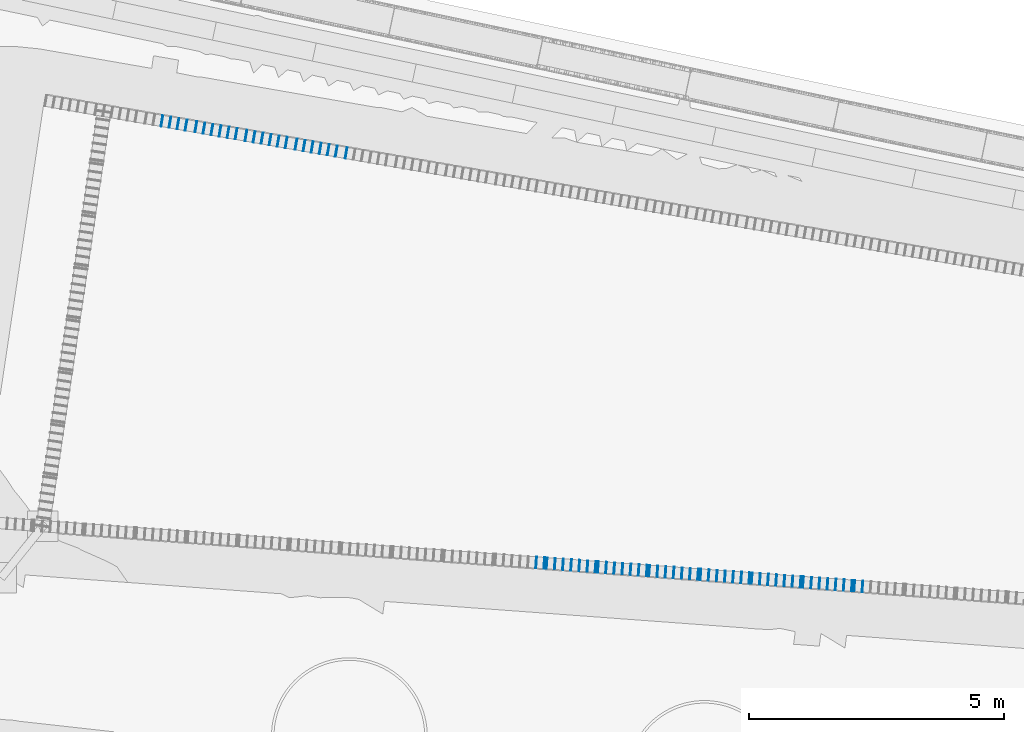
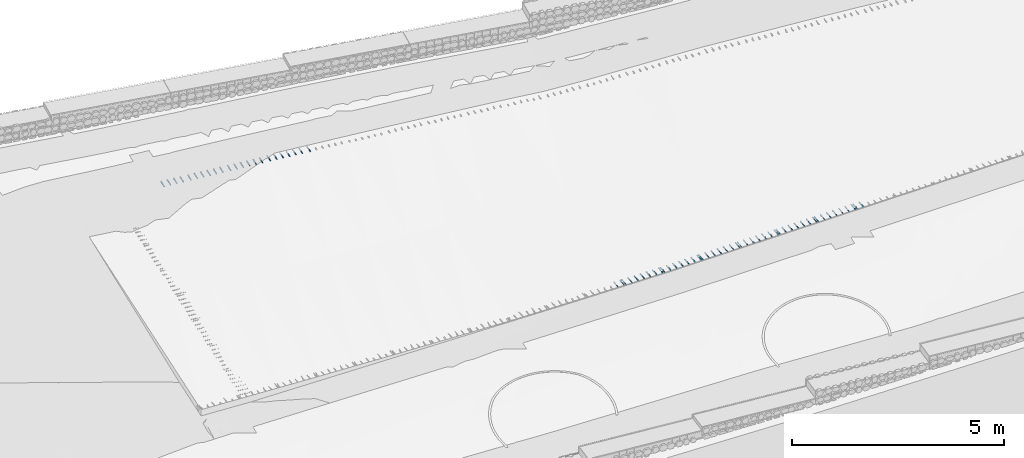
# Not in any storey, part 3 of 33: 69 members.
"""IFC4 model written with IfcOpenShell, lengths in metres."""

import ifcopenshell
import ifcopenshell.guid

model = None  # the IFC model being written
_history = None  # IfcOwnerHistory: only IFC2X3 demands one
_inside = {}  # id of a spatial element -> (the spatial element, [elements in it])
_under = {}  # id of a project, library or spatial element -> (it, [spatial elements below it])
_declared = {}  # id of a project -> (the project, [libraries it declares])
_typed = {}  # id of a type object -> (the type object, [elements of that type])
_made_of = {}  # id of a material, layer set ... -> (it, [elements and type objects made of it])


def new_model(schema):
    """Start an empty IFC model of exactly this schema.

    Asked for "IFC4X3", IfcOpenShell would pick the latest addendum, in which some entities
    have other attributes; the version numbers below select the first issue.
    IFC2X3 requires an IfcOwnerHistory on every rooted entity: one is made here for all.
    """
    global model, _history
    if schema == "IFC4X3":
        model = ifcopenshell.file(schema_version=(4, 3, 0, 0))
    else:
        model = ifcopenshell.file(schema=schema)
    _inside.clear()
    _under.clear()
    _declared.clear()
    _typed.clear()
    _made_of.clear()
    _history = None
    if model.schema == "IFC2X3":
        org = make("IfcOrganization", Name="unknown")
        user = make(
            "IfcPersonAndOrganization",
            ThePerson=make("IfcPerson", FamilyName="unknown"),
            TheOrganization=org,
        )
        app = make(
            "IfcApplication",
            ApplicationDeveloper=org,
            Version="unknown",
            ApplicationFullName="unknown",
            ApplicationIdentifier="unknown",
        )
        _history = make(
            "IfcOwnerHistory",
            OwningUser=user,
            OwningApplication=app,
            ChangeAction="ADDED",
            CreationDate=0,
        )
    return model


def make(cls, **values):
    """One entity of the class cls with the attributes given. An attribute that is None is left unset."""
    return model.create_entity(
        cls, **{name: value for name, value in values.items() if value is not None}
    )


def rooted(cls, **values):
    """An entity with a GlobalId (a new one), such as an element, a storey or a relation."""
    return make(cls, GlobalId=ifcopenshell.guid.new(), OwnerHistory=_history, **values)


def si_unit(unit_type, name, prefix=None):
    """IfcSIUnit, for example si_unit("LENGTHUNIT", "METRE", prefix="MILLI")."""
    return make("IfcSIUnit", UnitType=unit_type, Prefix=prefix, Name=name)


def assignment(units):
    """IfcUnitAssignment: the units of a project."""
    return None if units is None else make("IfcUnitAssignment", Units=units)


def point(xyz):
    """IfcCartesianPoint."""
    return None if xyz is None else make("IfcCartesianPoint", Coordinates=xyz)


def direction(xyz):
    """IfcDirection."""
    return None if xyz is None else make("IfcDirection", DirectionRatios=xyz)


def frame(location, z_axis=None, x_axis=None):
    """IfcAxis2Placement3D, a coordinate frame: its origin and axes. An axis left out is left unset."""
    return make(
        "IfcAxis2Placement3D",
        Location=point(location),
        Axis=direction(z_axis),
        RefDirection=direction(x_axis),
    )


def origin_with_axes():
    """The frame at (0, 0, 0) with the z axis (0, 0, 1) and the x axis (1, 0, 0) written out."""
    return frame((0.0, 0.0, 0.0), z_axis=(0.0, 0.0, 1.0), x_axis=(1.0, 0.0, 0.0))


def place(relative_to, where):
    """IfcLocalPlacement: puts the frame where relative to a parent placement (None: the world)."""
    return make(
        "IfcLocalPlacement", PlacementRelTo=relative_to, RelativePlacement=where
    )


def context(
    kind, dimensions, precision=None, world=None, true_north=None, identifier=None
):
    """IfcGeometricRepresentationContext, for example the 3D "Model" context."""
    return make(
        "IfcGeometricRepresentationContext",
        ContextIdentifier=identifier,
        ContextType=kind,
        CoordinateSpaceDimension=dimensions,
        Precision=precision,
        WorldCoordinateSystem=world,
        TrueNorth=true_north,
    )


def subcontext(parent, identifier, kind, view, scale=None):
    """IfcGeometricRepresentationSubContext, for example "Body" below "Model"."""
    return make(
        "IfcGeometricRepresentationSubContext",
        ContextIdentifier=identifier,
        ContextType=kind,
        ParentContext=parent,
        TargetScale=scale,
        TargetView=view,
    )


def project(units=None, contexts=None):
    """IfcProject with its units and contexts."""
    return rooted(
        "IfcProject",
        Name="project",
        RepresentationContexts=contexts,
        UnitsInContext=assignment(units),
    )


def spatial(cls, under=None, at=None, **own):
    """A site, building, storey or space (cls), placed at a placement, below another one or the project."""
    s = rooted(cls, ObjectPlacement=at, **own)
    if under is not None:
        _under.setdefault(under.id(), (under, []))[1].append(s)
    return s


def profile(cls, at=None, kind="AREA", **sizes):
    """A parametric profile (cls). Its sizes go by their IFC names, for example OverallWidth=200.0."""
    return make(cls, ProfileType=kind, Position=at, **sizes)


def rectangle(**sizes):
    """IfcRectangleProfileDef."""
    return profile("IfcRectangleProfileDef", **sizes)


def extrude(swept, where, along, depth):
    """IfcExtrudedAreaSolid: the profile swept, set in the frame where, extruded along a direction by depth."""
    return make(
        "IfcExtrudedAreaSolid",
        SweptArea=swept,
        Position=where,
        ExtrudedDirection=direction(along),
        Depth=depth,
    )


def shape(context_of_items, identifier, shape_type, items):
    """IfcShapeRepresentation: the items that make up one representation, for example the "Body"."""
    return make(
        "IfcShapeRepresentation",
        ContextOfItems=context_of_items,
        RepresentationIdentifier=identifier,
        RepresentationType=shape_type,
        Items=items,
    )


def material(Name=None, Category=None):
    """IfcMaterial."""
    return make("IfcMaterial", Name=Name, Category=Category)


def material_profile(
    of_material, cross_section, Name=None, Category=None, Priority=None
):
    """IfcMaterialProfile: a cross section and its material."""
    return make(
        "IfcMaterialProfile",
        Name=Name,
        Material=of_material,
        Profile=cross_section,
        Priority=Priority,
        Category=Category,
    )


def profile_set(profiles, Name=None, composite=None):
    """IfcMaterialProfileSet."""
    return make(
        "IfcMaterialProfileSet",
        Name=Name,
        MaterialProfiles=profiles,
        CompositeProfile=composite,
    )


def profile_usage(for_profile_set, cardinal=None, extent=None):
    """IfcMaterialProfileSetUsage: how a profile set lies along its element."""
    return make(
        "IfcMaterialProfileSetUsage",
        ForProfileSet=for_profile_set,
        CardinalPoint=cardinal,
        ReferenceExtent=extent,
    )


def made_of(thing, what):
    """Note that an element or type object is made of a material, layer set ...; save() writes the relation."""
    if what is not None:
        _made_of.setdefault(what.id(), (what, []))[1].append(thing)
    return thing


def type_object(cls, material=None, **own):
    """A type object (cls), such as IfcWallType, which elements share."""
    return made_of(rooted(cls, **own), material)


def element(
    cls,
    number,
    at=None,
    inside=None,
    cuts=None,
    type_object=None,
    material=None,
    context=None,
    identifier="Body",
    shape_type=None,
    held_by="IfcProductDefinitionShape",
    body=None,
    shapes=None,
    **own,
):
    """One element of the class cls, such as IfcWall. Its Tag is "e" and its number.

    at: its placement. inside: the storey or other place that contains it. cuts: it is an
    opening in that element (IfcRelVoidsElement). A single representation is given by context,
    identifier, shape_type and body (its items); several are given by shapes. held_by: the class
    of the entity that holds the representations. save() writes the other relations.
    """
    e = rooted(cls, Tag="e%d" % number, ObjectPlacement=at, **own)
    if body is not None:
        shapes = [shape(context, identifier, shape_type, body)]
    if shapes is not None:
        e.Representation = make(held_by, Representations=shapes)
    if inside is not None:
        _inside.setdefault(inside.id(), (inside, []))[1].append(e)
    if cuts is not None:
        rooted(
            "IfcRelVoidsElement", RelatingBuildingElement=cuts, RelatedOpeningElement=e
        )
    if type_object is not None:
        _typed.setdefault(type_object.id(), (type_object, []))[1].append(e)
    return made_of(e, material)


def aggregate(whole, parts):
    """IfcRelAggregates: a whole, such as a stair, and the parts it consists of."""
    return rooted("IfcRelAggregates", RelatingObject=whole, RelatedObjects=parts)


def save(model, path):
    """Write the relations noted so far, then the file.

    IfcRelAggregates (storeys below a building ...), IfcRelContainedInSpatialStructure (elements
    in a storey), IfcRelDefinesByType, IfcRelAssociatesMaterial and IfcRelDeclares: one each for
    every whole, place, type object, material and project.
    """
    for whole, parts in _under.values():
        aggregate(whole, parts)
    for where, things in _inside.values():
        rooted(
            "IfcRelContainedInSpatialStructure",
            RelatedElements=things,
            RelatingStructure=where,
        )
    for kind, things in _typed.values():
        rooted("IfcRelDefinesByType", RelatedObjects=things, RelatingType=kind)
    for what, things in _made_of.values():
        rooted("IfcRelAssociatesMaterial", RelatedObjects=things, RelatingMaterial=what)
    for by, libraries in _declared.values():
        rooted("IfcRelDeclares", RelatingContext=by, RelatedDefinitions=libraries)
    model.write(path)


model = new_model("IFC4")

# Units and contexts
model_context = context("Model", 3, precision=1e-05, world=origin_with_axes(), true_north=direction((0.0, 1.0)))
body_context = subcontext(model_context, "Body", "Model", "MODEL_VIEW")
ifc_project = project(units=[si_unit("AREAUNIT", "SQUARE_METRE"), si_unit("VOLUMEUNIT", "CUBIC_METRE"), si_unit("LENGTHUNIT", "METRE")], contexts=[model_context])

# Site
site_placement = place(None, origin_with_axes())
site = spatial("IfcSite", under=ifc_project, at=site_placement, Name="Lares · Rua das Mercês · artigo 4771")

# Members
ifc_material = material(Name="Aço galvanizado / Stahl verzinkt", Category="steel")
ifc_material_profile = material_profile(ifc_material, rectangle(XDim=0.018, YDim=0.018))
ifc_profile_set = profile_set([ifc_material_profile], Name="R0.018")
ifc_profile_usage_1 = profile_usage(ifc_profile_set)
member_type = type_object("IfcMemberType", Name="R0.018 / galvanized", PredefinedType="NOTDEFINED", material=ifc_profile_set)
member_1_placement = place(site_placement, frame((57.5175719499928, 2.42230388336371, 14.6943953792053), z_axis=(0.0733053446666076, 0.997309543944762, 0.0), x_axis=(0.997309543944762, -0.0733053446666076, 0.0)))
element("IfcMember", 1, at=member_1_placement, inside=site, type_object=member_type, material=ifc_profile_usage_1, Name="Acesso · dreno lateral raso · grelha", context=body_context, shape_type="SweptSolid", body=[
    extrude(rectangle(XDim=0.018, YDim=0.018), origin_with_axes(), (0.0, 0.0, 1.0), 0.22),
])
ifc_profile_usage_2 = profile_usage(ifc_profile_set)
member_2_placement = place(site_placement, frame((57.677141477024, 2.41057502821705, 14.7007400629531), z_axis=(0.0733053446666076, 0.997309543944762, 0.0), x_axis=(0.997309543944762, -0.0733053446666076, 0.0)))
element("IfcMember", 2, at=member_2_placement, inside=site, type_object=member_type, material=ifc_profile_usage_2, Name="Acesso · dreno lateral raso · grelha", context=body_context, shape_type="SweptSolid", body=[
    extrude(rectangle(XDim=0.018, YDim=0.018), origin_with_axes(), (0.0, 0.0, 1.0), 0.22),
])
ifc_profile_usage_3 = profile_usage(ifc_profile_set)
member_3_placement = place(site_placement, frame((57.7238578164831, 2.40714123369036, 14.702646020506), z_axis=(0.0733053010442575, 0.997309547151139, 0.0), x_axis=(0.997309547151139, -0.0733053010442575, 0.0)))
element("IfcMember", 3, at=member_3_placement, inside=site, type_object=member_type, material=ifc_profile_usage_3, Name="Acesso · dreno lateral raso · grelha", context=body_context, shape_type="SweptSolid", body=[
    extrude(rectangle(XDim=0.018, YDim=0.018), origin_with_axes(), (0.0, 0.0, 1.0), 0.22),
])
ifc_profile_usage_4 = profile_usage(ifc_profile_set)
member_4_placement = place(site_placement, frame((57.8834273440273, 2.39541238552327, 14.7092491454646), z_axis=(0.0733053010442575, 0.997309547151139, 0.0), x_axis=(0.997309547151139, -0.0733053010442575, 0.0)))
element("IfcMember", 4, at=member_4_placement, inside=site, type_object=member_type, material=ifc_profile_usage_4, Name="Acesso · dreno lateral raso · grelha", context=body_context, shape_type="SweptSolid", body=[
    extrude(rectangle(XDim=0.018, YDim=0.018), origin_with_axes(), (0.0, 0.0, 1.0), 0.22),
])
ifc_profile_usage_5 = profile_usage(ifc_profile_set)
member_5_placement = place(site_placement, frame((58.0429968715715, 2.38368353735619, 14.7158522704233), z_axis=(0.0733053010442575, 0.997309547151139, 0.0), x_axis=(0.997309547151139, -0.0733053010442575, 0.0)))
element("IfcMember", 5, at=member_5_placement, inside=site, type_object=member_type, material=ifc_profile_usage_5, Name="Acesso · dreno lateral raso · grelha", context=body_context, shape_type="SweptSolid", body=[
    extrude(rectangle(XDim=0.018, YDim=0.018), origin_with_axes(), (0.0, 0.0, 1.0), 0.22),
])
ifc_profile_usage_6 = profile_usage(ifc_profile_set)
member_6_placement = place(site_placement, frame((58.2025663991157, 2.3719546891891, 14.722455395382), z_axis=(0.0733053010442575, 0.997309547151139, 0.0), x_axis=(0.997309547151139, -0.0733053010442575, 0.0)))
element("IfcMember", 6, at=member_6_placement, inside=site, type_object=member_type, material=ifc_profile_usage_6, Name="Acesso · dreno lateral raso · grelha", context=body_context, shape_type="SweptSolid", body=[
    extrude(rectangle(XDim=0.018, YDim=0.018), origin_with_axes(), (0.0, 0.0, 1.0), 0.22),
])
ifc_profile_usage_7 = profile_usage(ifc_profile_set)
member_7_placement = place(site_placement, frame((58.3621359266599, 2.36022584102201, 14.7290585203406), z_axis=(0.0733053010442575, 0.997309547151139, 0.0), x_axis=(0.997309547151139, -0.0733053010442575, 0.0)))
element("IfcMember", 7, at=member_7_placement, inside=site, type_object=member_type, material=ifc_profile_usage_7, Name="Acesso · dreno lateral raso · grelha", context=body_context, shape_type="SweptSolid", body=[
    extrude(rectangle(XDim=0.018, YDim=0.018), origin_with_axes(), (0.0, 0.0, 1.0), 0.22),
])
ifc_profile_usage_8 = profile_usage(ifc_profile_set)
member_8_placement = place(site_placement, frame((58.521705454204, 2.34849699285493, 14.7356616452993), z_axis=(0.0733053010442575, 0.997309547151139, 0.0), x_axis=(0.997309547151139, -0.0733053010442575, 0.0)))
element("IfcMember", 8, at=member_8_placement, inside=site, type_object=member_type, material=ifc_profile_usage_8, Name="Acesso · dreno lateral raso · grelha", context=body_context, shape_type="SweptSolid", body=[
    extrude(rectangle(XDim=0.018, YDim=0.018), origin_with_axes(), (0.0, 0.0, 1.0), 0.22),
])
ifc_profile_usage_9 = profile_usage(ifc_profile_set)
member_9_placement = place(site_placement, frame((58.6812749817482, 2.33676814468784, 14.742264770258), z_axis=(0.0733053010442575, 0.997309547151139, 0.0), x_axis=(0.997309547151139, -0.0733053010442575, 0.0)))
element("IfcMember", 9, at=member_9_placement, inside=site, type_object=member_type, material=ifc_profile_usage_9, Name="Acesso · dreno lateral raso · grelha", context=body_context, shape_type="SweptSolid", body=[
    extrude(rectangle(XDim=0.018, YDim=0.018), origin_with_axes(), (0.0, 0.0, 1.0), 0.22),
])
ifc_profile_usage_10 = profile_usage(ifc_profile_set)
member_10_placement = place(site_placement, frame((58.7279866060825, 2.33333469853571, 14.7446644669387), z_axis=(0.0733052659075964, 0.997309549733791, 0.0), x_axis=(0.997309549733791, -0.0733052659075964, 0.0)))
element("IfcMember", 10, at=member_10_placement, inside=site, type_object=member_type, material=ifc_profile_usage_10, Name="Acesso · dreno lateral raso · grelha", context=body_context, shape_type="SweptSolid", body=[
    extrude(rectangle(XDim=0.018, YDim=0.018), origin_with_axes(), (0.0, 0.0, 1.0), 0.22),
])
ifc_profile_usage_11 = profile_usage(ifc_profile_set)
member_11_placement = place(site_placement, frame((58.8875561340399, 2.3216058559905, 14.753756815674), z_axis=(0.0733052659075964, 0.997309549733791, 0.0), x_axis=(0.997309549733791, -0.0733052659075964, 0.0)))
element("IfcMember", 11, at=member_11_placement, inside=site, type_object=member_type, material=ifc_profile_usage_11, Name="Acesso · dreno lateral raso · grelha", context=body_context, shape_type="SweptSolid", body=[
    extrude(rectangle(XDim=0.018, YDim=0.018), origin_with_axes(), (0.0, 0.0, 1.0), 0.22),
])
ifc_profile_usage_12 = profile_usage(ifc_profile_set)
member_12_placement = place(site_placement, frame((59.0471256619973, 2.30987701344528, 14.7628491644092), z_axis=(0.0733052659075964, 0.997309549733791, 0.0), x_axis=(0.997309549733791, -0.0733052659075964, 0.0)))
element("IfcMember", 12, at=member_12_placement, inside=site, type_object=member_type, material=ifc_profile_usage_12, Name="Acesso · dreno lateral raso · grelha", context=body_context, shape_type="SweptSolid", body=[
    extrude(rectangle(XDim=0.018, YDim=0.018), origin_with_axes(), (0.0, 0.0, 1.0), 0.22),
])
ifc_profile_usage_13 = profile_usage(ifc_profile_set)
member_13_placement = place(site_placement, frame((59.2066951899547, 2.29814817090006, 14.7719415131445), z_axis=(0.0733052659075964, 0.997309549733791, 0.0), x_axis=(0.997309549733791, -0.0733052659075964, 0.0)))
element("IfcMember", 13, at=member_13_placement, inside=site, type_object=member_type, material=ifc_profile_usage_13, Name="Acesso · dreno lateral raso · grelha", context=body_context, shape_type="SweptSolid", body=[
    extrude(rectangle(XDim=0.018, YDim=0.018), origin_with_axes(), (0.0, 0.0, 1.0), 0.22),
])
ifc_profile_usage_14 = profile_usage(ifc_profile_set)
member_14_placement = place(site_placement, frame((59.3662647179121, 2.28641932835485, 14.7810338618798), z_axis=(0.0733052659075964, 0.997309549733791, 0.0), x_axis=(0.997309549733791, -0.0733052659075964, 0.0)))
element("IfcMember", 14, at=member_14_placement, inside=site, type_object=member_type, material=ifc_profile_usage_14, Name="Acesso · dreno lateral raso · grelha", context=body_context, shape_type="SweptSolid", body=[
    extrude(rectangle(XDim=0.018, YDim=0.018), origin_with_axes(), (0.0, 0.0, 1.0), 0.22),
])
ifc_profile_usage_15 = profile_usage(ifc_profile_set)
member_15_placement = place(site_placement, frame((59.5258342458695, 2.27469048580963, 14.7901262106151), z_axis=(0.0733052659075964, 0.997309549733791, 0.0), x_axis=(0.997309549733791, -0.0733052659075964, 0.0)))
element("IfcMember", 15, at=member_15_placement, inside=site, type_object=member_type, material=ifc_profile_usage_15, Name="Acesso · dreno lateral raso · grelha", context=body_context, shape_type="SweptSolid", body=[
    extrude(rectangle(XDim=0.018, YDim=0.018), origin_with_axes(), (0.0, 0.0, 1.0), 0.22),
])
ifc_profile_usage_16 = profile_usage(ifc_profile_set)
member_16_placement = place(site_placement, frame((59.6854037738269, 2.26296164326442, 14.7992185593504), z_axis=(0.0733052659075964, 0.997309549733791, 0.0), x_axis=(0.997309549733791, -0.0733052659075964, 0.0)))
element("IfcMember", 16, at=member_16_placement, inside=site, type_object=member_type, material=ifc_profile_usage_16, Name="Acesso · dreno lateral raso · grelha", context=body_context, shape_type="SweptSolid", body=[
    extrude(rectangle(XDim=0.018, YDim=0.018), origin_with_axes(), (0.0, 0.0, 1.0), 0.22),
])
ifc_profile_usage_17 = profile_usage(ifc_profile_set)
member_17_placement = place(site_placement, frame((59.7321104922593, 2.25952855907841, 14.8019125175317), z_axis=(0.073305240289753, 0.997309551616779, 0.0), x_axis=(0.997309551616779, -0.073305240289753, 0.0)))
element("IfcMember", 17, at=member_17_placement, inside=site, type_object=member_type, material=ifc_profile_usage_17, Name="Acesso · dreno lateral raso · grelha", context=body_context, shape_type="SweptSolid", body=[
    extrude(rectangle(XDim=0.018, YDim=0.018), origin_with_axes(), (0.0, 0.0, 1.0), 0.22),
])
ifc_profile_usage_18 = profile_usage(ifc_profile_set)
member_18_placement = place(site_placement, frame((59.891680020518, 2.24779972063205, 14.8111786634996), z_axis=(0.073305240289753, 0.997309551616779, 0.0), x_axis=(0.997309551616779, -0.073305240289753, 0.0)))
element("IfcMember", 18, at=member_18_placement, inside=site, type_object=member_type, material=ifc_profile_usage_18, Name="Acesso · dreno lateral raso · grelha", context=body_context, shape_type="SweptSolid", body=[
    extrude(rectangle(XDim=0.018, YDim=0.018), origin_with_axes(), (0.0, 0.0, 1.0), 0.22),
])
ifc_profile_usage_19 = profile_usage(ifc_profile_set)
member_19_placement = place(site_placement, frame((60.0512495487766, 2.23607088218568, 14.8204448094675), z_axis=(0.073305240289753, 0.997309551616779, 0.0), x_axis=(0.997309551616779, -0.073305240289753, 0.0)))
element("IfcMember", 19, at=member_19_placement, inside=site, type_object=member_type, material=ifc_profile_usage_19, Name="Acesso · dreno lateral raso · grelha", context=body_context, shape_type="SweptSolid", body=[
    extrude(rectangle(XDim=0.018, YDim=0.018), origin_with_axes(), (0.0, 0.0, 1.0), 0.22),
])
ifc_profile_usage_20 = profile_usage(ifc_profile_set)
member_20_placement = place(site_placement, frame((60.2108190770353, 2.22434204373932, 14.8297109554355), z_axis=(0.073305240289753, 0.997309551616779, 0.0), x_axis=(0.997309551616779, -0.073305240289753, 0.0)))
element("IfcMember", 20, at=member_20_placement, inside=site, type_object=member_type, material=ifc_profile_usage_20, Name="Acesso · dreno lateral raso · grelha", context=body_context, shape_type="SweptSolid", body=[
    extrude(rectangle(XDim=0.018, YDim=0.018), origin_with_axes(), (0.0, 0.0, 1.0), 0.22),
])
ifc_profile_usage_21 = profile_usage(ifc_profile_set)
member_21_placement = place(site_placement, frame((60.370388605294, 2.21261320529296, 14.8389771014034), z_axis=(0.073305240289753, 0.997309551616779, 0.0), x_axis=(0.997309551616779, -0.073305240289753, 0.0)))
element("IfcMember", 21, at=member_21_placement, inside=site, type_object=member_type, material=ifc_profile_usage_21, Name="Acesso · dreno lateral raso · grelha", context=body_context, shape_type="SweptSolid", body=[
    extrude(rectangle(XDim=0.018, YDim=0.018), origin_with_axes(), (0.0, 0.0, 1.0), 0.22),
])
ifc_profile_usage_22 = profile_usage(ifc_profile_set)
member_22_placement = place(site_placement, frame((60.5299581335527, 2.2008843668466, 14.8482432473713), z_axis=(0.073305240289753, 0.997309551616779, 0.0), x_axis=(0.997309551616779, -0.073305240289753, 0.0)))
element("IfcMember", 22, at=member_22_placement, inside=site, type_object=member_type, material=ifc_profile_usage_22, Name="Acesso · dreno lateral raso · grelha", context=body_context, shape_type="SweptSolid", body=[
    extrude(rectangle(XDim=0.018, YDim=0.018), origin_with_axes(), (0.0, 0.0, 1.0), 0.22),
])
ifc_profile_usage_23 = profile_usage(ifc_profile_set)
member_23_placement = place(site_placement, frame((60.6895276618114, 2.18915552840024, 14.8575093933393), z_axis=(0.073305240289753, 0.997309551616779, 0.0), x_axis=(0.997309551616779, -0.073305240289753, 0.0)))
element("IfcMember", 23, at=member_23_placement, inside=site, type_object=member_type, material=ifc_profile_usage_23, Name="Acesso · dreno lateral raso · grelha", context=body_context, shape_type="SweptSolid", body=[
    extrude(rectangle(XDim=0.018, YDim=0.018), origin_with_axes(), (0.0, 0.0, 1.0), 0.22),
])
ifc_profile_usage_24 = profile_usage(ifc_profile_set)
member_24_placement = place(site_placement, frame((60.7362292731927, 2.18572282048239, 14.8602213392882), z_axis=(0.0733052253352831, 0.997309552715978, 0.0), x_axis=(0.997309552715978, -0.0733052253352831, 0.0)))
element("IfcMember", 24, at=member_24_placement, inside=site, type_object=member_type, material=ifc_profile_usage_24, Name="Acesso · dreno lateral raso · grelha", context=body_context, shape_type="SweptSolid", body=[
    extrude(rectangle(XDim=0.018, YDim=0.018), origin_with_axes(), (0.0, 0.0, 1.0), 0.22),
])
ifc_profile_usage_25 = profile_usage(ifc_profile_set)
member_25_placement = place(site_placement, frame((60.8957988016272, 2.17399398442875, 14.8694874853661), z_axis=(0.0733052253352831, 0.997309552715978, 0.0), x_axis=(0.997309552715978, -0.0733052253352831, 0.0)))
element("IfcMember", 25, at=member_25_placement, inside=site, type_object=member_type, material=ifc_profile_usage_25, Name="Acesso · dreno lateral raso · grelha", context=body_context, shape_type="SweptSolid", body=[
    extrude(rectangle(XDim=0.018, YDim=0.018), origin_with_axes(), (0.0, 0.0, 1.0), 0.22),
])
ifc_profile_usage_26 = profile_usage(ifc_profile_set)
member_26_placement = place(site_placement, frame((61.0553683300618, 2.1622651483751, 14.878753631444), z_axis=(0.0733052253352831, 0.997309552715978, 0.0), x_axis=(0.997309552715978, -0.0733052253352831, 0.0)))
element("IfcMember", 26, at=member_26_placement, inside=site, type_object=member_type, material=ifc_profile_usage_26, Name="Acesso · dreno lateral raso · grelha", context=body_context, shape_type="SweptSolid", body=[
    extrude(rectangle(XDim=0.018, YDim=0.018), origin_with_axes(), (0.0, 0.0, 1.0), 0.22),
])
ifc_profile_usage_27 = profile_usage(ifc_profile_set)
member_27_placement = place(site_placement, frame((61.2149378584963, 2.15053631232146, 14.888019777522), z_axis=(0.0733052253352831, 0.997309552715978, 0.0), x_axis=(0.997309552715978, -0.0733052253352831, 0.0)))
element("IfcMember", 27, at=member_27_placement, inside=site, type_object=member_type, material=ifc_profile_usage_27, Name="Acesso · dreno lateral raso · grelha", context=body_context, shape_type="SweptSolid", body=[
    extrude(rectangle(XDim=0.018, YDim=0.018), origin_with_axes(), (0.0, 0.0, 1.0), 0.22),
])
ifc_profile_usage_28 = profile_usage(ifc_profile_set)
member_28_placement = place(site_placement, frame((61.3745073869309, 2.13880747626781, 14.8972859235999), z_axis=(0.0733052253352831, 0.997309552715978, 0.0), x_axis=(0.997309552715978, -0.0733052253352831, 0.0)))
element("IfcMember", 28, at=member_28_placement, inside=site, type_object=member_type, material=ifc_profile_usage_28, Name="Acesso · dreno lateral raso · grelha", context=body_context, shape_type="SweptSolid", body=[
    extrude(rectangle(XDim=0.018, YDim=0.018), origin_with_axes(), (0.0, 0.0, 1.0), 0.22),
])
ifc_profile_usage_29 = profile_usage(ifc_profile_set)
member_29_placement = place(site_placement, frame((61.5340769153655, 2.12707864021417, 14.9065520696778), z_axis=(0.0733052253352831, 0.997309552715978, 0.0), x_axis=(0.997309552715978, -0.0733052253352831, 0.0)))
element("IfcMember", 29, at=member_29_placement, inside=site, type_object=member_type, material=ifc_profile_usage_29, Name="Acesso · dreno lateral raso · grelha", context=body_context, shape_type="SweptSolid", body=[
    extrude(rectangle(XDim=0.018, YDim=0.018), origin_with_axes(), (0.0, 0.0, 1.0), 0.22),
])
ifc_profile_usage_30 = profile_usage(ifc_profile_set)
member_30_placement = place(site_placement, frame((61.6936464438, 2.11534980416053, 14.9158182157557), z_axis=(0.0733052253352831, 0.997309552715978, 0.0), x_axis=(0.997309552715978, -0.0733052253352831, 0.0)))
element("IfcMember", 30, at=member_30_placement, inside=site, type_object=member_type, material=ifc_profile_usage_30, Name="Acesso · dreno lateral raso · grelha", context=body_context, shape_type="SweptSolid", body=[
    extrude(rectangle(XDim=0.018, YDim=0.018), origin_with_axes(), (0.0, 0.0, 1.0), 0.22),
])
ifc_profile_usage_31 = profile_usage(ifc_profile_set)
member_31_placement = place(site_placement, frame((61.7403427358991, 2.11191748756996, 14.9185298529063), z_axis=(0.0733052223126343, 0.997309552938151, 0.0), x_axis=(0.997309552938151, -0.0733052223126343, 0.0)))
element("IfcMember", 31, at=member_31_placement, inside=site, type_object=member_type, material=ifc_profile_usage_31, Name="Acesso · dreno lateral raso · grelha", context=body_context, shape_type="SweptSolid", body=[
    extrude(rectangle(XDim=0.018, YDim=0.018), origin_with_axes(), (0.0, 0.0, 1.0), 0.22),
])
ifc_profile_usage_32 = profile_usage(ifc_profile_set)
member_32_placement = place(site_placement, frame((61.8999122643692, 2.10018865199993, 14.9277959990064), z_axis=(0.0733052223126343, 0.997309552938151, 0.0), x_axis=(0.997309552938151, -0.0733052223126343, 0.0)))
element("IfcMember", 32, at=member_32_placement, inside=site, type_object=member_type, material=ifc_profile_usage_32, Name="Acesso · dreno lateral raso · grelha", context=body_context, shape_type="SweptSolid", body=[
    extrude(rectangle(XDim=0.018, YDim=0.018), origin_with_axes(), (0.0, 0.0, 1.0), 0.22),
])
ifc_profile_usage_33 = profile_usage(ifc_profile_set)
member_33_placement = place(site_placement, frame((62.0594817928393, 2.08845981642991, 14.9370621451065), z_axis=(0.0733052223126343, 0.997309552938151, 0.0), x_axis=(0.997309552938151, -0.0733052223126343, 0.0)))
element("IfcMember", 33, at=member_33_placement, inside=site, type_object=member_type, material=ifc_profile_usage_33, Name="Acesso · dreno lateral raso · grelha", context=body_context, shape_type="SweptSolid", body=[
    extrude(rectangle(XDim=0.018, YDim=0.018), origin_with_axes(), (0.0, 0.0, 1.0), 0.22),
])
ifc_profile_usage_34 = profile_usage(ifc_profile_set)
member_34_placement = place(site_placement, frame((62.2190513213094, 2.07673098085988, 14.9463282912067), z_axis=(0.0733052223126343, 0.997309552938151, 0.0), x_axis=(0.997309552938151, -0.0733052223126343, 0.0)))
element("IfcMember", 34, at=member_34_placement, inside=site, type_object=member_type, material=ifc_profile_usage_34, Name="Acesso · dreno lateral raso · grelha", context=body_context, shape_type="SweptSolid", body=[
    extrude(rectangle(XDim=0.018, YDim=0.018), origin_with_axes(), (0.0, 0.0, 1.0), 0.22),
])
ifc_profile_usage_35 = profile_usage(ifc_profile_set)
member_35_placement = place(site_placement, frame((62.3786208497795, 2.06500214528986, 14.9555944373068), z_axis=(0.0733052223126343, 0.997309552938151, 0.0), x_axis=(0.997309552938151, -0.0733052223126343, 0.0)))
element("IfcMember", 35, at=member_35_placement, inside=site, type_object=member_type, material=ifc_profile_usage_35, Name="Acesso · dreno lateral raso · grelha", context=body_context, shape_type="SweptSolid", body=[
    extrude(rectangle(XDim=0.018, YDim=0.018), origin_with_axes(), (0.0, 0.0, 1.0), 0.22),
])
ifc_profile_usage_36 = profile_usage(ifc_profile_set)
member_36_placement = place(site_placement, frame((62.5381903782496, 2.05327330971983, 14.9648605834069), z_axis=(0.0733052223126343, 0.997309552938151, 0.0), x_axis=(0.997309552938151, -0.0733052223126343, 0.0)))
element("IfcMember", 36, at=member_36_placement, inside=site, type_object=member_type, material=ifc_profile_usage_36, Name="Acesso · dreno lateral raso · grelha", context=body_context, shape_type="SweptSolid", body=[
    extrude(rectangle(XDim=0.018, YDim=0.018), origin_with_axes(), (0.0, 0.0, 1.0), 0.22),
])
ifc_profile_usage_37 = profile_usage(ifc_profile_set)
member_37_placement = place(site_placement, frame((62.6977599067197, 2.04154447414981, 14.9741267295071), z_axis=(0.0733052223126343, 0.997309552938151, 0.0), x_axis=(0.997309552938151, -0.0733052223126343, 0.0)))
element("IfcMember", 37, at=member_37_placement, inside=site, type_object=member_type, material=ifc_profile_usage_37, Name="Acesso · dreno lateral raso · grelha", context=body_context, shape_type="SweptSolid", body=[
    extrude(rectangle(XDim=0.018, YDim=0.018), origin_with_axes(), (0.0, 0.0, 1.0), 0.22),
])
ifc_profile_usage_38 = profile_usage(ifc_profile_set)
member_38_placement = place(site_placement, frame((62.7444506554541, 2.03811256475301, 14.9768380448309), z_axis=(0.0733052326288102, 0.997309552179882, 0.0), x_axis=(0.997309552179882, -0.0733052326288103, 0.0)))
element("IfcMember", 38, at=member_38_placement, inside=site, type_object=member_type, material=ifc_profile_usage_38, Name="Acesso · dreno lateral raso · grelha", context=body_context, shape_type="SweptSolid", body=[
    extrude(rectangle(XDim=0.018, YDim=0.018), origin_with_axes(), (0.0, 0.0, 1.0), 0.220000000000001),
])
ifc_profile_usage_39 = profile_usage(ifc_profile_set)
member_39_placement = place(site_placement, frame((62.9040201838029, 2.02638372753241, 14.9861041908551), z_axis=(0.0733052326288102, 0.997309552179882, 0.0), x_axis=(0.997309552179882, -0.0733052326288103, 0.0)))
element("IfcMember", 39, at=member_39_placement, inside=site, type_object=member_type, material=ifc_profile_usage_39, Name="Acesso · dreno lateral raso · grelha", context=body_context, shape_type="SweptSolid", body=[
    extrude(rectangle(XDim=0.018, YDim=0.018), origin_with_axes(), (0.0, 0.0, 1.0), 0.220000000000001),
])
ifc_profile_usage_40 = profile_usage(ifc_profile_set)
member_40_placement = place(site_placement, frame((63.0635897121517, 2.0146548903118, 14.9953703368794), z_axis=(0.0733052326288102, 0.997309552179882, 0.0), x_axis=(0.997309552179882, -0.0733052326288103, 0.0)))
element("IfcMember", 40, at=member_40_placement, inside=site, type_object=member_type, material=ifc_profile_usage_40, Name="Acesso · dreno lateral raso · grelha", context=body_context, shape_type="SweptSolid", body=[
    extrude(rectangle(XDim=0.018, YDim=0.018), origin_with_axes(), (0.0, 0.0, 1.0), 0.220000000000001),
])
ifc_profile_usage_41 = profile_usage(ifc_profile_set)
member_41_placement = place(site_placement, frame((63.2231592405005, 2.00292605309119, 15.0046364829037), z_axis=(0.0733052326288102, 0.997309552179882, 0.0), x_axis=(0.997309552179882, -0.0733052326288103, 0.0)))
element("IfcMember", 41, at=member_41_placement, inside=site, type_object=member_type, material=ifc_profile_usage_41, Name="Acesso · dreno lateral raso · grelha", context=body_context, shape_type="SweptSolid", body=[
    extrude(rectangle(XDim=0.018, YDim=0.018), origin_with_axes(), (0.0, 0.0, 1.0), 0.220000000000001),
])
ifc_profile_usage_42 = profile_usage(ifc_profile_set)
member_42_placement = place(site_placement, frame((63.3827287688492, 1.99119721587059, 15.0139026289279), z_axis=(0.0733052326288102, 0.997309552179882, 0.0), x_axis=(0.997309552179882, -0.0733052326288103, 0.0)))
element("IfcMember", 42, at=member_42_placement, inside=site, type_object=member_type, material=ifc_profile_usage_42, Name="Acesso · dreno lateral raso · grelha", context=body_context, shape_type="SweptSolid", body=[
    extrude(rectangle(XDim=0.018, YDim=0.018), origin_with_axes(), (0.0, 0.0, 1.0), 0.220000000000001),
])
ifc_profile_usage_43 = profile_usage(ifc_profile_set)
member_43_placement = place(site_placement, frame((63.542298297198, 1.97946837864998, 15.0231687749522), z_axis=(0.0733052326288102, 0.997309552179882, 0.0), x_axis=(0.997309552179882, -0.0733052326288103, 0.0)))
element("IfcMember", 43, at=member_43_placement, inside=site, type_object=member_type, material=ifc_profile_usage_43, Name="Acesso · dreno lateral raso · grelha", context=body_context, shape_type="SweptSolid", body=[
    extrude(rectangle(XDim=0.018, YDim=0.018), origin_with_axes(), (0.0, 0.0, 1.0), 0.220000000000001),
])
ifc_profile_usage_44 = profile_usage(ifc_profile_set)
member_44_placement = place(site_placement, frame((63.7018678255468, 1.96773954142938, 15.0324349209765), z_axis=(0.0733052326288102, 0.997309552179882, 0.0), x_axis=(0.997309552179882, -0.0733052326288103, 0.0)))
element("IfcMember", 44, at=member_44_placement, inside=site, type_object=member_type, material=ifc_profile_usage_44, Name="Acesso · dreno lateral raso · grelha", context=body_context, shape_type="SweptSolid", body=[
    extrude(rectangle(XDim=0.018, YDim=0.018), origin_with_axes(), (0.0, 0.0, 1.0), 0.220000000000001),
])
ifc_profile_usage_45 = profile_usage(ifc_profile_set)
member_45_placement = place(site_placement, frame((63.7485527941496, 1.96430805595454, 15.0351459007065), z_axis=(0.0733052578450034, 0.997309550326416, 0.0), x_axis=(0.997309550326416, -0.0733052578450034, 0.0)))
element("IfcMember", 45, at=member_45_placement, inside=site, type_object=member_type, material=ifc_profile_usage_45, Name="Acesso · dreno lateral raso · grelha", context=body_context, shape_type="SweptSolid", body=[
    extrude(rectangle(XDim=0.018, YDim=0.018), origin_with_axes(), (0.0, 0.0, 1.0), 0.22),
])
ifc_profile_usage_46 = profile_usage(ifc_profile_set)
member_46_placement = place(site_placement, frame((63.9081223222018, 1.95257921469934, 15.0444120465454), z_axis=(0.0733052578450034, 0.997309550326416, 0.0), x_axis=(0.997309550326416, -0.0733052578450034, 0.0)))
element("IfcMember", 46, at=member_46_placement, inside=site, type_object=member_type, material=ifc_profile_usage_46, Name="Acesso · dreno lateral raso · grelha", context=body_context, shape_type="SweptSolid", body=[
    extrude(rectangle(XDim=0.018, YDim=0.018), origin_with_axes(), (0.0, 0.0, 1.0), 0.22),
])
ifc_profile_usage_47 = profile_usage(ifc_profile_set)
member_47_placement = place(site_placement, frame((50.1767808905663, 11.0702759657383, 14.9084227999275), z_axis=(0.171149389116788, 0.985245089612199, 0.0), x_axis=(0.985245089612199, -0.171149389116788, 0.0)))
element("IfcMember", 47, at=member_47_placement, inside=site, type_object=member_type, material=ifc_profile_usage_47, Name="Acesso · dreno lateral raso · grelha", context=body_context, shape_type="SweptSolid", body=[
    extrude(rectangle(XDim=0.018, YDim=0.018), origin_with_axes(), (0.0, 0.0, 1.0), 0.22),
])
ifc_profile_usage_48 = profile_usage(ifc_profile_set)
member_48_placement = place(site_placement, frame((50.3344201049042, 11.0428920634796, 14.9138754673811), z_axis=(0.171149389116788, 0.985245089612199, 0.0), x_axis=(0.985245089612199, -0.171149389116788, 0.0)))
element("IfcMember", 48, at=member_48_placement, inside=site, type_object=member_type, material=ifc_profile_usage_48, Name="Acesso · dreno lateral raso · grelha", context=body_context, shape_type="SweptSolid", body=[
    extrude(rectangle(XDim=0.018, YDim=0.018), origin_with_axes(), (0.0, 0.0, 1.0), 0.22),
])
ifc_profile_usage_49 = profile_usage(ifc_profile_set)
member_49_placement = place(site_placement, frame((50.4920593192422, 11.0155081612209, 14.9193281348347), z_axis=(0.171149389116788, 0.985245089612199, 0.0), x_axis=(0.985245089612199, -0.171149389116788, 0.0)))
element("IfcMember", 49, at=member_49_placement, inside=site, type_object=member_type, material=ifc_profile_usage_49, Name="Acesso · dreno lateral raso · grelha", context=body_context, shape_type="SweptSolid", body=[
    extrude(rectangle(XDim=0.018, YDim=0.018), origin_with_axes(), (0.0, 0.0, 1.0), 0.22),
])
ifc_profile_usage_50 = profile_usage(ifc_profile_set)
member_50_placement = place(site_placement, frame((50.6496985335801, 10.9881242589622, 14.9247808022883), z_axis=(0.171149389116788, 0.985245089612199, 0.0), x_axis=(0.985245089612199, -0.171149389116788, 0.0)))
element("IfcMember", 50, at=member_50_placement, inside=site, type_object=member_type, material=ifc_profile_usage_50, Name="Acesso · dreno lateral raso · grelha", context=body_context, shape_type="SweptSolid", body=[
    extrude(rectangle(XDim=0.018, YDim=0.018), origin_with_axes(), (0.0, 0.0, 1.0), 0.22),
])
ifc_profile_usage_51 = profile_usage(ifc_profile_set)
member_51_placement = place(site_placement, frame((50.8423728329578, 10.9546543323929, 14.9313688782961), z_axis=(0.171149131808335, 0.98524513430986, 0.0), x_axis=(0.98524513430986, -0.171149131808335, 0.0)))
element("IfcMember", 51, at=member_51_placement, inside=site, type_object=member_type, material=ifc_profile_usage_51, Name="Acesso · dreno lateral raso · grelha", context=body_context, shape_type="SweptSolid", body=[
    extrude(rectangle(XDim=0.018, YDim=0.018), origin_with_axes(), (0.0, 0.0, 1.0), 0.22),
])
ifc_profile_usage_52 = profile_usage(ifc_profile_set)
member_52_placement = place(site_placement, frame((51.0000120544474, 10.9272704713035, 14.9364138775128), z_axis=(0.171149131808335, 0.98524513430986, 0.0), x_axis=(0.98524513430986, -0.171149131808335, 0.0)))
element("IfcMember", 52, at=member_52_placement, inside=site, type_object=member_type, material=ifc_profile_usage_52, Name="Acesso · dreno lateral raso · grelha", context=body_context, shape_type="SweptSolid", body=[
    extrude(rectangle(XDim=0.018, YDim=0.018), origin_with_axes(), (0.0, 0.0, 1.0), 0.22),
])
ifc_profile_usage_53 = profile_usage(ifc_profile_set)
member_53_placement = place(site_placement, frame((51.157651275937, 10.8998866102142, 14.9414588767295), z_axis=(0.171149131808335, 0.98524513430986, 0.0), x_axis=(0.98524513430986, -0.171149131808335, 0.0)))
element("IfcMember", 53, at=member_53_placement, inside=site, type_object=member_type, material=ifc_profile_usage_53, Name="Acesso · dreno lateral raso · grelha", context=body_context, shape_type="SweptSolid", body=[
    extrude(rectangle(XDim=0.018, YDim=0.018), origin_with_axes(), (0.0, 0.0, 1.0), 0.22),
])
ifc_profile_usage_54 = profile_usage(ifc_profile_set)
member_54_placement = place(site_placement, frame((51.3152904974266, 10.8725027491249, 14.9465038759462), z_axis=(0.171149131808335, 0.98524513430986, 0.0), x_axis=(0.98524513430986, -0.171149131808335, 0.0)))
element("IfcMember", 54, at=member_54_placement, inside=site, type_object=member_type, material=ifc_profile_usage_54, Name="Acesso · dreno lateral raso · grelha", context=body_context, shape_type="SweptSolid", body=[
    extrude(rectangle(XDim=0.018, YDim=0.018), origin_with_axes(), (0.0, 0.0, 1.0), 0.22),
])
ifc_profile_usage_55 = profile_usage(ifc_profile_set)
member_55_placement = place(site_placement, frame((51.4729297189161, 10.8451188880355, 14.951548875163), z_axis=(0.171149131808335, 0.98524513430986, 0.0), x_axis=(0.98524513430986, -0.171149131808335, 0.0)))
element("IfcMember", 55, at=member_55_placement, inside=site, type_object=member_type, material=ifc_profile_usage_55, Name="Acesso · dreno lateral raso · grelha", context=body_context, shape_type="SweptSolid", body=[
    extrude(rectangle(XDim=0.018, YDim=0.018), origin_with_axes(), (0.0, 0.0, 1.0), 0.22),
])
ifc_profile_usage_56 = profile_usage(ifc_profile_set)
member_56_placement = place(site_placement, frame((51.6305689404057, 10.8177350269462, 14.9565938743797), z_axis=(0.171149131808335, 0.98524513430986, 0.0), x_axis=(0.98524513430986, -0.171149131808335, 0.0)))
element("IfcMember", 56, at=member_56_placement, inside=site, type_object=member_type, material=ifc_profile_usage_56, Name="Acesso · dreno lateral raso · grelha", context=body_context, shape_type="SweptSolid", body=[
    extrude(rectangle(XDim=0.018, YDim=0.018), origin_with_axes(), (0.0, 0.0, 1.0), 0.22),
])
ifc_profile_usage_57 = profile_usage(ifc_profile_set)
member_57_placement = place(site_placement, frame((51.8232466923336, 10.784264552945, 14.9627298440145), z_axis=(0.171148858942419, 0.985245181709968, 0.0), x_axis=(0.985245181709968, -0.171148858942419, 0.0)))
element("IfcMember", 57, at=member_57_placement, inside=site, type_object=member_type, material=ifc_profile_usage_57, Name="Acesso · dreno lateral raso · grelha", context=body_context, shape_type="SweptSolid", body=[
    extrude(rectangle(XDim=0.018, YDim=0.018), origin_with_axes(), (0.0, 0.0, 1.0), 0.220000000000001),
])
ifc_profile_usage_58 = profile_usage(ifc_profile_set)
member_58_placement = place(site_placement, frame((51.9808859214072, 10.7568807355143, 14.9676128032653), z_axis=(0.171148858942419, 0.985245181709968, 0.0), x_axis=(0.985245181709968, -0.171148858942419, 0.0)))
element("IfcMember", 58, at=member_58_placement, inside=site, type_object=member_type, material=ifc_profile_usage_58, Name="Acesso · dreno lateral raso · grelha", context=body_context, shape_type="SweptSolid", body=[
    extrude(rectangle(XDim=0.018, YDim=0.018), origin_with_axes(), (0.0, 0.0, 1.0), 0.220000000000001),
])
ifc_profile_usage_59 = profile_usage(ifc_profile_set)
member_59_placement = place(site_placement, frame((52.1385251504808, 10.7294969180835, 14.9724957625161), z_axis=(0.171148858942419, 0.985245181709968, 0.0), x_axis=(0.985245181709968, -0.171148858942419, 0.0)))
element("IfcMember", 59, at=member_59_placement, inside=site, type_object=member_type, material=ifc_profile_usage_59, Name="Acesso · dreno lateral raso · grelha", context=body_context, shape_type="SweptSolid", body=[
    extrude(rectangle(XDim=0.018, YDim=0.018), origin_with_axes(), (0.0, 0.0, 1.0), 0.220000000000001),
])
ifc_profile_usage_60 = profile_usage(ifc_profile_set)
member_60_placement = place(site_placement, frame((52.2961643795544, 10.7021131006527, 14.977378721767), z_axis=(0.171148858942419, 0.985245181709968, 0.0), x_axis=(0.985245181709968, -0.171148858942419, 0.0)))
element("IfcMember", 60, at=member_60_placement, inside=site, type_object=member_type, material=ifc_profile_usage_60, Name="Acesso · dreno lateral raso · grelha", context=body_context, shape_type="SweptSolid", body=[
    extrude(rectangle(XDim=0.018, YDim=0.018), origin_with_axes(), (0.0, 0.0, 1.0), 0.220000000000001),
])
ifc_profile_usage_61 = profile_usage(ifc_profile_set)
member_61_placement = place(site_placement, frame((52.453803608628, 10.6747292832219, 14.9822616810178), z_axis=(0.171148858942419, 0.985245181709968, 0.0), x_axis=(0.985245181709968, -0.171148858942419, 0.0)))
element("IfcMember", 61, at=member_61_placement, inside=site, type_object=member_type, material=ifc_profile_usage_61, Name="Acesso · dreno lateral raso · grelha", context=body_context, shape_type="SweptSolid", body=[
    extrude(rectangle(XDim=0.018, YDim=0.018), origin_with_axes(), (0.0, 0.0, 1.0), 0.220000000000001),
])
ifc_profile_usage_62 = profile_usage(ifc_profile_set)
member_62_placement = place(site_placement, frame((52.6114428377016, 10.6473454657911, 14.9871446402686), z_axis=(0.171148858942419, 0.985245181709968, 0.0), x_axis=(0.985245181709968, -0.171148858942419, 0.0)))
element("IfcMember", 62, at=member_62_placement, inside=site, type_object=member_type, material=ifc_profile_usage_62, Name="Acesso · dreno lateral raso · grelha", context=body_context, shape_type="SweptSolid", body=[
    extrude(rectangle(XDim=0.018, YDim=0.018), origin_with_axes(), (0.0, 0.0, 1.0), 0.220000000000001),
])
ifc_profile_usage_63 = profile_usage(ifc_profile_set)
member_63_placement = place(site_placement, frame((52.8041241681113, 10.6138744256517, 14.9930826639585), z_axis=(0.171148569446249, 0.985245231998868, 0.0), x_axis=(0.985245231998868, -0.171148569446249, 0.0)))
element("IfcMember", 63, at=member_63_placement, inside=site, type_object=member_type, material=ifc_profile_usage_63, Name="Acesso · dreno lateral raso · grelha", context=body_context, shape_type="SweptSolid", body=[
    extrude(rectangle(XDim=0.018, YDim=0.018), origin_with_axes(), (0.0, 0.0, 1.0), 0.220000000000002),
])
ifc_profile_usage_64 = profile_usage(ifc_profile_set)
member_64_placement = place(site_placement, frame((52.9617634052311, 10.5864906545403, 14.9978035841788), z_axis=(0.171148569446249, 0.985245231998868, 0.0), x_axis=(0.985245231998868, -0.171148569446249, 0.0)))
element("IfcMember", 64, at=member_64_placement, inside=site, type_object=member_type, material=ifc_profile_usage_64, Name="Acesso · dreno lateral raso · grelha", context=body_context, shape_type="SweptSolid", body=[
    extrude(rectangle(XDim=0.018, YDim=0.018), origin_with_axes(), (0.0, 0.0, 1.0), 0.220000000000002),
])
ifc_profile_usage_65 = profile_usage(ifc_profile_set)
member_65_placement = place(site_placement, frame((53.1194026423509, 10.5591068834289, 15.002524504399), z_axis=(0.171148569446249, 0.985245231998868, 0.0), x_axis=(0.985245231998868, -0.171148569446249, 0.0)))
element("IfcMember", 65, at=member_65_placement, inside=site, type_object=member_type, material=ifc_profile_usage_65, Name="Acesso · dreno lateral raso · grelha", context=body_context, shape_type="SweptSolid", body=[
    extrude(rectangle(XDim=0.018, YDim=0.018), origin_with_axes(), (0.0, 0.0, 1.0), 0.220000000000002),
])
ifc_profile_usage_66 = profile_usage(ifc_profile_set)
member_66_placement = place(site_placement, frame((53.2770418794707, 10.5317231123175, 15.0072454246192), z_axis=(0.171148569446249, 0.985245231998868, 0.0), x_axis=(0.985245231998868, -0.171148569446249, 0.0)))
element("IfcMember", 66, at=member_66_placement, inside=site, type_object=member_type, material=ifc_profile_usage_66, Name="Acesso · dreno lateral raso · grelha", context=body_context, shape_type="SweptSolid", body=[
    extrude(rectangle(XDim=0.018, YDim=0.018), origin_with_axes(), (0.0, 0.0, 1.0), 0.220000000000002),
])
ifc_profile_usage_67 = profile_usage(ifc_profile_set)
member_67_placement = place(site_placement, frame((53.4346811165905, 10.5043393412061, 15.0119663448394), z_axis=(0.171148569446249, 0.985245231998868, 0.0), x_axis=(0.985245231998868, -0.171148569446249, 0.0)))
element("IfcMember", 67, at=member_67_placement, inside=site, type_object=member_type, material=ifc_profile_usage_67, Name="Acesso · dreno lateral raso · grelha", context=body_context, shape_type="SweptSolid", body=[
    extrude(rectangle(XDim=0.018, YDim=0.018), origin_with_axes(), (0.0, 0.0, 1.0), 0.220000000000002),
])
ifc_profile_usage_68 = profile_usage(ifc_profile_set)
member_68_placement = place(site_placement, frame((53.5923203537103, 10.4769555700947, 15.0166872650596), z_axis=(0.171148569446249, 0.985245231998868, 0.0), x_axis=(0.985245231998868, -0.171148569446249, 0.0)))
element("IfcMember", 68, at=member_68_placement, inside=site, type_object=member_type, material=ifc_profile_usage_68, Name="Acesso · dreno lateral raso · grelha", context=body_context, shape_type="SweptSolid", body=[
    extrude(rectangle(XDim=0.018, YDim=0.018), origin_with_axes(), (0.0, 0.0, 1.0), 0.220000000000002),
])
ifc_profile_usage_69 = profile_usage(ifc_profile_set)
member_69_placement = place(site_placement, frame((53.7850053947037, 10.4434839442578, 15.022427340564), z_axis=(0.171148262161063, 0.985245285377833, 0.0), x_axis=(0.985245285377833, -0.171148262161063, 0.0)))
element("IfcMember", 69, at=member_69_placement, inside=site, type_object=member_type, material=ifc_profile_usage_69, Name="Acesso · dreno lateral raso · grelha", context=body_context, shape_type="SweptSolid", body=[
    extrude(rectangle(XDim=0.018, YDim=0.018), origin_with_axes(), (0.0, 0.0, 1.0), 0.22),
])

save(model, "model.ifc")
